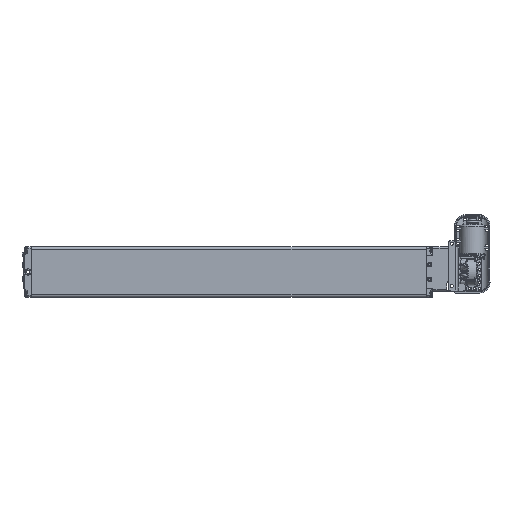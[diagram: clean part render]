
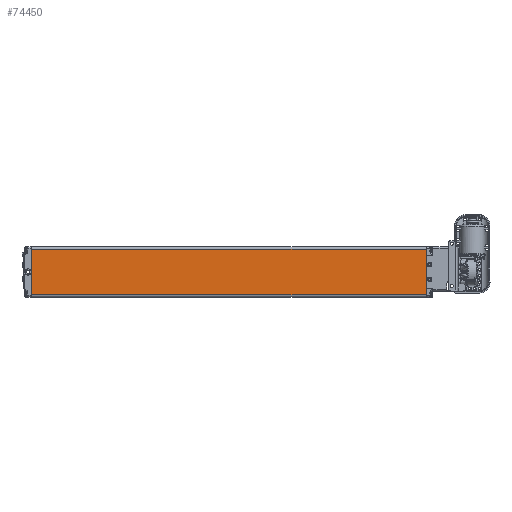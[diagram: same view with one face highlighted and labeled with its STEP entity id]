
A CAD part, top view. The second image highlights one B-rep face of the part: STEP entity #74450.
In plain terms, the highlighted planar face has unit normal (0, 0, 1).
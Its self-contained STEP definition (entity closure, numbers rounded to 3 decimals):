
#7083=LINE('',#125713,#10106);
#7084=LINE('',#125716,#10107);
#7085=LINE('',#125718,#10108);
#7086=LINE('',#125720,#10109);
#10106=VECTOR('',#86895,1000.);
#10107=VECTOR('',#86896,1000.);
#10108=VECTOR('',#86897,1000.);
#10109=VECTOR('',#86898,1000.);
#17820=ORIENTED_EDGE('',*,*,#34873,.T.);
#17821=ORIENTED_EDGE('',*,*,#34874,.T.);
#17822=ORIENTED_EDGE('',*,*,#34875,.T.);
#17823=ORIENTED_EDGE('',*,*,#34876,.T.);
#34873=EDGE_CURVE('',#43628,#43629,#7083,.F.);
#34874=EDGE_CURVE('',#43629,#43630,#7084,.T.);
#34875=EDGE_CURVE('',#43630,#43631,#7085,.T.);
#34876=EDGE_CURVE('',#43631,#43628,#7086,.F.);
#43628=VERTEX_POINT('',#125714);
#43629=VERTEX_POINT('',#125715);
#43630=VERTEX_POINT('',#125717);
#43631=VERTEX_POINT('',#125719);
#52046=EDGE_LOOP('',(#17820,#17821,#17822,#17823));
#56643=FACE_BOUND('',#52046,.T.);
#60389=PLANE('',#78952);
#74450=ADVANCED_FACE('',(#56643),#60389,.T.);
#78952=AXIS2_PLACEMENT_3D('',#125712,#86893,#86894);
#86893=DIRECTION('',(0.,0.,1.));
#86894=DIRECTION('',(1.,0.,0.));
#86895=DIRECTION('',(0.,-1.,0.));
#86896=DIRECTION('',(-1.,0.,0.));
#86897=DIRECTION('',(0.,-1.,0.));
#86898=DIRECTION('',(-1.,0.,0.));
#125712=CARTESIAN_POINT('',(60.,939.5,30.));
#125713=CARTESIAN_POINT('',(54.,939.5,30.));
#125714=CARTESIAN_POINT('',(54.,0.5,30.));
#125715=CARTESIAN_POINT('',(54.,939.,30.));
#125716=CARTESIAN_POINT('',(60.,939.,30.));
#125717=CARTESIAN_POINT('',(-54.,939.,30.));
#125718=CARTESIAN_POINT('',(-54.,939.5,30.));
#125719=CARTESIAN_POINT('',(-54.,0.5,30.));
#125720=CARTESIAN_POINT('',(54.,0.5,30.));
